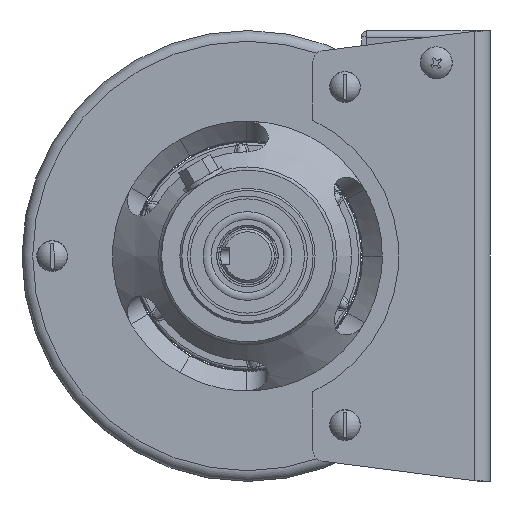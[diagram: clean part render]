
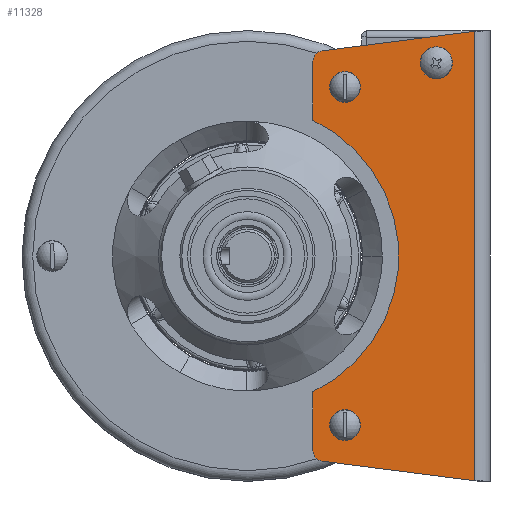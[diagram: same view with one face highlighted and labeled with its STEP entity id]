
A CAD part, left-side view. The second image highlights one B-rep face of the part: STEP entity #11328.
In plain terms, the highlighted planar face has unit normal (-1, 0, 0).
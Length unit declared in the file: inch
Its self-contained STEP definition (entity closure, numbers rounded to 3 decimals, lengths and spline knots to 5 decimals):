
#322=FACE_BOUND('',#1544,.T.);
#323=FACE_BOUND('',#1545,.T.);
#324=FACE_BOUND('',#1546,.T.);
#526=PLANE('',#12146);
#791=FACE_OUTER_BOUND('',#1543,.T.);
#1543=EDGE_LOOP('',(#7785,#7786,#7787,#7788,#7789,#7790,#7791,#7792));
#1544=EDGE_LOOP('',(#7793));
#1545=EDGE_LOOP('',(#7794));
#1546=EDGE_LOOP('',(#7795));
#2770=CIRCLE('',#12131,0.17265);
#2778=CIRCLE('',#12147,0.125);
#2779=CIRCLE('',#12148,1.75);
#2780=CIRCLE('',#12149,0.125);
#2781=CIRCLE('',#12150,0.177);
#2782=CIRCLE('',#12151,0.17265);
#3532=LINE('',#17009,#4133);
#3533=LINE('',#17013,#4134);
#3534=LINE('',#17017,#4135);
#3535=LINE('',#17021,#4136);
#3536=LINE('',#17022,#4137);
#4133=VECTOR('',#13698,39.37008);
#4134=VECTOR('',#13701,39.37008);
#4135=VECTOR('',#13704,39.37008);
#4136=VECTOR('',#13707,39.37008);
#4137=VECTOR('',#13708,39.37008);
#4738=VERTEX_POINT('',#16980);
#4745=VERTEX_POINT('',#17007);
#4746=VERTEX_POINT('',#17008);
#4747=VERTEX_POINT('',#17010);
#4748=VERTEX_POINT('',#17012);
#4749=VERTEX_POINT('',#17014);
#4750=VERTEX_POINT('',#17016);
#4751=VERTEX_POINT('',#17018);
#4752=VERTEX_POINT('',#17020);
#4753=VERTEX_POINT('',#17023);
#4754=VERTEX_POINT('',#17025);
#5887=EDGE_CURVE('',#4738,#4738,#2770,.T.);
#5898=EDGE_CURVE('',#4745,#4746,#3532,.T.);
#5899=EDGE_CURVE('',#4746,#4747,#2778,.T.);
#5900=EDGE_CURVE('',#4747,#4748,#3533,.T.);
#5901=EDGE_CURVE('',#4748,#4749,#2779,.T.);
#5902=EDGE_CURVE('',#4749,#4750,#3534,.T.);
#5903=EDGE_CURVE('',#4750,#4751,#2780,.T.);
#5904=EDGE_CURVE('',#4751,#4752,#3535,.T.);
#5905=EDGE_CURVE('',#4752,#4745,#3536,.T.);
#5906=EDGE_CURVE('',#4753,#4753,#2781,.T.);
#5907=EDGE_CURVE('',#4754,#4754,#2782,.T.);
#7785=ORIENTED_EDGE('',*,*,#5898,.T.);
#7786=ORIENTED_EDGE('',*,*,#5899,.T.);
#7787=ORIENTED_EDGE('',*,*,#5900,.T.);
#7788=ORIENTED_EDGE('',*,*,#5901,.T.);
#7789=ORIENTED_EDGE('',*,*,#5902,.T.);
#7790=ORIENTED_EDGE('',*,*,#5903,.T.);
#7791=ORIENTED_EDGE('',*,*,#5904,.T.);
#7792=ORIENTED_EDGE('',*,*,#5905,.T.);
#7793=ORIENTED_EDGE('',*,*,#5906,.F.);
#7794=ORIENTED_EDGE('',*,*,#5907,.F.);
#7795=ORIENTED_EDGE('',*,*,#5887,.F.);
#11328=ADVANCED_FACE('',(#791,#322,#323,#324),#526,.T.);
#12131=AXIS2_PLACEMENT_3D('',#16982,#13663,#13664);
#12146=AXIS2_PLACEMENT_3D('',#17006,#13696,#13697);
#12147=AXIS2_PLACEMENT_3D('',#17011,#13699,#13700);
#12148=AXIS2_PLACEMENT_3D('',#17015,#13702,#13703);
#12149=AXIS2_PLACEMENT_3D('',#17019,#13705,#13706);
#12150=AXIS2_PLACEMENT_3D('',#17024,#13709,#13710);
#12151=AXIS2_PLACEMENT_3D('',#17026,#13711,#13712);
#13663=DIRECTION('center_axis',(-1.,0.,0.));
#13664=DIRECTION('ref_axis',(0.,0.,1.));
#13696=DIRECTION('center_axis',(-1.,0.,0.));
#13697=DIRECTION('ref_axis',(0.,1.,0.));
#13698=DIRECTION('',(0.,0.992,-0.128));
#13699=DIRECTION('center_axis',(-1.,0.,0.));
#13700=DIRECTION('ref_axis',(0.,1.,0.));
#13701=DIRECTION('',(0.,0.,-1.));
#13702=DIRECTION('center_axis',(1.,0.,0.));
#13703=DIRECTION('ref_axis',(0.,1.,0.));
#13704=DIRECTION('',(0.,0.,-1.));
#13705=DIRECTION('center_axis',(-1.,0.,0.));
#13706=DIRECTION('ref_axis',(0.,1.,0.));
#13707=DIRECTION('',(0.,-0.992,-0.128));
#13708=DIRECTION('',(0.,0.,1.));
#13709=DIRECTION('center_axis',(-1.,0.,0.));
#13710=DIRECTION('ref_axis',(0.,0.,1.));
#13711=DIRECTION('center_axis',(-1.,0.,0.));
#13712=DIRECTION('ref_axis',(0.,0.,1.));
#16980=CARTESIAN_POINT('',(-1.46335,1.86015,1.96891));
#16982=CARTESIAN_POINT('Origin',(-1.46335,1.6875,1.96891));
#17006=CARTESIAN_POINT('Origin',(-1.46335,2.8125,0.));
#17007=CARTESIAN_POINT('',(-1.46335,0.1821,2.61696));
#17008=CARTESIAN_POINT('',(-1.46335,1.95345,2.38903));
#17009=CARTESIAN_POINT('',(-1.46335,2.0625,2.375));
#17010=CARTESIAN_POINT('',(-1.46335,2.0625,2.26505));
#17011=CARTESIAN_POINT('Origin',(-1.46335,1.9375,2.26505));
#17012=CARTESIAN_POINT('',(-1.46335,2.0625,1.58114));
#17013=CARTESIAN_POINT('',(-1.46335,2.0625,1.58114));
#17014=CARTESIAN_POINT('',(-1.46335,2.0625,-1.58114));
#17015=CARTESIAN_POINT('Origin',(-1.46335,2.8125,0.));
#17016=CARTESIAN_POINT('',(-1.46335,2.0625,-2.26505));
#17017=CARTESIAN_POINT('',(-1.46335,2.0625,-2.375));
#17018=CARTESIAN_POINT('',(-1.46335,1.95345,-2.38903));
#17019=CARTESIAN_POINT('Origin',(-1.46335,1.9375,-2.26505));
#17020=CARTESIAN_POINT('',(-1.46335,0.1821,-2.61696));
#17021=CARTESIAN_POINT('',(-1.46335,0.1196,-2.625));
#17022=CARTESIAN_POINT('',(-1.46335,0.1821,0.));
#17023=CARTESIAN_POINT('',(-1.46335,0.52378,2.1048));
#17024=CARTESIAN_POINT('Origin',(-1.46335,0.625,2.25));
#17025=CARTESIAN_POINT('',(-1.46335,1.86015,-1.96891));
#17026=CARTESIAN_POINT('Origin',(-1.46335,1.6875,-1.96891));
